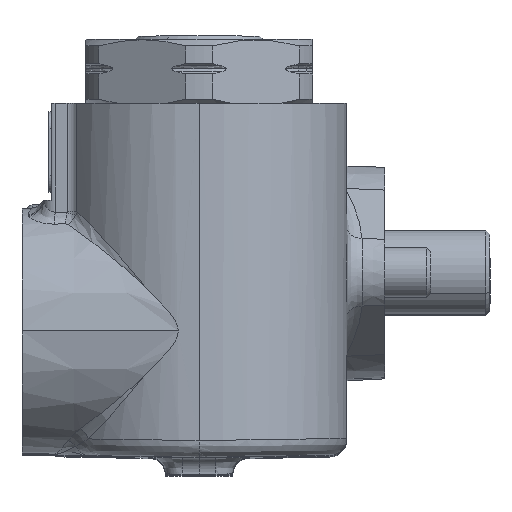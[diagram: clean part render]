
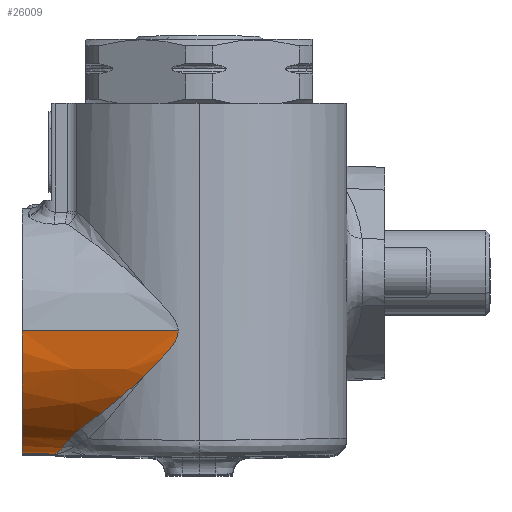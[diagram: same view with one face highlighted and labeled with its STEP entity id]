
A CAD part, top view. The second image highlights one B-rep face of the part: STEP entity #26009.
In plain terms, the highlighted conical face has half-angle 1 degrees and reference radius 14.5 mm.
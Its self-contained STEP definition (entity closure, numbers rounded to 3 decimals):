
#69 = B_SPLINE_CURVE_WITH_KNOTS ( 'NONE', 3,
 ( #10615, #22917, #25132, #16261, #23659, #27624 ),
 .UNSPECIFIED., .F., .F.,
 ( 4, 2, 4 ),
 ( 0., 0.002, 0.003 ),
 .UNSPECIFIED. ) ;
#456 = B_SPLINE_CURVE_WITH_KNOTS ( 'NONE', 3,
 ( #9090, #28290, #1874, #6741, #30948, #4701, #14259, #24054, #23891, #16943, #16505, #13945, #26549, #2331 ),
 .UNSPECIFIED., .F., .F.,
 ( 4, 2, 2, 2, 2, 2, 4 ),
 ( 0.023, 0.024, 0.025, 0.026, 0.026, 0.028, 0.03 ),
 .UNSPECIFIED. ) ;
#1874 = CARTESIAN_POINT ( 'NONE',  ( 3.448, -7.576, 71.313 ) ) ;
#1886 = EDGE_CURVE ( 'NONE', #26635, #27289, #456, .T. ) ;
#2040 = EDGE_CURVE ( 'NONE', #8446, #20182, #69, .T. ) ;
#2140 = EDGE_CURVE ( 'NONE', #17975, #8446, #9083, .T. ) ;
#2331 = CARTESIAN_POINT ( 'NONE',  ( -0.474, -12.326, 70.259 ) ) ;
#2379 = CARTESIAN_POINT ( 'NONE',  ( -6.863, -17.695, 66.523 ) ) ;
#4525 = DIRECTION ( 'NONE',  ( 1., 0., 0.017 ) ) ;
#4701 = CARTESIAN_POINT ( 'NONE',  ( 2.76, -8.831, 71.198 ) ) ;
#5872 = EDGE_CURVE ( 'NONE', #20182, #27289, #25092, .T. ) ;
#6537 = CIRCLE ( 'NONE', #15558, 14.5 ) ;
#6741 = CARTESIAN_POINT ( 'NONE',  ( 3.225, -8.108, 71.279 ) ) ;
#6877 = DIRECTION ( 'NONE',  ( -1., 0.017, 0. ) ) ;
#6885 = LINE ( 'NONE', #16491, #21040 ) ;
#7263 = CARTESIAN_POINT ( 'NONE',  ( -9.52, -19.989, 63.157 ) ) ;
#8432 = CARTESIAN_POINT ( 'NONE',  ( -15., -7., 56.5 ) ) ;
#8446 = VERTEX_POINT ( 'NONE', #18248 ) ;
#9019 = ORIENTED_EDGE ( 'NONE', *, *, #2040, .T. ) ;
#9067 = CARTESIAN_POINT ( 'NONE',  ( -17., -21.465, 56.5 ) ) ;
#9083 = B_SPLINE_CURVE_WITH_KNOTS ( 'NONE', 3,
 ( #9767, #14798, #12118, #14337, #19061, #11801, #31021, #28670, #19225, #7263 ),
 .UNSPECIFIED., .F., .F.,
 ( 4, 2, 2, 2, 4 ),
 ( 0., 0.002, 0.004, 0.005, 0.007 ),
 .UNSPECIFIED. ) ;
#9090 = CARTESIAN_POINT ( 'NONE',  ( 3.519, -7., 71.323 ) ) ;
#9767 = CARTESIAN_POINT ( 'NONE',  ( -11.198, -21.566, 56.5 ) ) ;
#10615 = CARTESIAN_POINT ( 'NONE',  ( -9.52, -19.989, 63.157 ) ) ;
#11015 = CARTESIAN_POINT ( 'NONE',  ( -0.474, -12.326, 70.259 ) ) ;
#11372 = VECTOR ( 'NONE', #6877, 1000. ) ;
#11772 = CARTESIAN_POINT ( 'NONE',  ( -7.469, -18.149, 66.002 ) ) ;
#11801 = CARTESIAN_POINT ( 'NONE',  ( -10.396, -21.028, 60.517 ) ) ;
#12118 = CARTESIAN_POINT ( 'NONE',  ( -11.01, -21.534, 57.672 ) ) ;
#12596 = VERTEX_POINT ( 'NONE', #24638 ) ;
#13334 = ORIENTED_EDGE ( 'NONE', *, *, #26945, .T. ) ;
#13945 = CARTESIAN_POINT ( 'NONE',  ( 0.313, -11.549, 70.555 ) ) ;
#13994 = CARTESIAN_POINT ( 'NONE',  ( -1.754, -13.532, 69.72 ) ) ;
#14027 = VERTEX_POINT ( 'NONE', #23767 ) ;
#14259 = CARTESIAN_POINT ( 'NONE',  ( 2.586, -9.06, 71.165 ) ) ;
#14337 = CARTESIAN_POINT ( 'NONE',  ( -10.798, -21.398, 58.826 ) ) ;
#14435 = FACE_OUTER_BOUND ( 'NONE', #18513, .T. ) ;
#14798 = CARTESIAN_POINT ( 'NONE',  ( -11.103, -21.568, 57.088 ) ) ;
#15192 = DIRECTION ( 'NONE',  ( 0., 0., -1. ) ) ;
#15474 = CONICAL_SURFACE ( 'NONE', #25051, 14.5, 0.017 ) ;
#15558 = AXIS2_PLACEMENT_3D ( 'NONE', #8432, #17990, #15192 ) ;
#16261 = CARTESIAN_POINT ( 'NONE',  ( -8.672, -19.06, 64.76 ) ) ;
#16465 = CARTESIAN_POINT ( 'NONE',  ( -11.198, -21.566, 56.5 ) ) ;
#16491 = CARTESIAN_POINT ( 'NONE',  ( -15., -7., 71. ) ) ;
#16505 = CARTESIAN_POINT ( 'NONE',  ( 1.093, -10.752, 70.803 ) ) ;
#16943 = CARTESIAN_POINT ( 'NONE',  ( 1.48, -10.346, 70.91 ) ) ;
#17372 = ORIENTED_EDGE ( 'NONE', *, *, #1886, .F. ) ;
#17975 = VERTEX_POINT ( 'NONE', #16465 ) ;
#17990 = DIRECTION ( 'NONE',  ( 1., 0., 0. ) ) ;
#18248 = CARTESIAN_POINT ( 'NONE',  ( -9.52, -19.989, 63.157 ) ) ;
#18513 = EDGE_LOOP ( 'NONE', ( #29733, #13334, #27591, #19966, #9019, #19650, #17372 ) ) ;
#19061 = CARTESIAN_POINT ( 'NONE',  ( -10.678, -21.297, 59.395 ) ) ;
#19198 = CARTESIAN_POINT ( 'NONE',  ( -8.055, -18.576, 65.432 ) ) ;
#19225 = CARTESIAN_POINT ( 'NONE',  ( -9.704, -20.245, 62.651 ) ) ;
#19650 = ORIENTED_EDGE ( 'NONE', *, *, #5872, .T. ) ;
#19966 = ORIENTED_EDGE ( 'NONE', *, *, #2140, .T. ) ;
#20182 = VERTEX_POINT ( 'NONE', #27783 ) ;
#21040 = VECTOR ( 'NONE', #4525, 1000. ) ;
#21264 = CARTESIAN_POINT ( 'NONE',  ( -3.695, -15.195, 68.718 ) ) ;
#21580 = CARTESIAN_POINT ( 'NONE',  ( -3.048, -14.656, 69.076 ) ) ;
#22168 = CARTESIAN_POINT ( 'NONE',  ( -15., -7., 56.5 ) ) ;
#22917 = CARTESIAN_POINT ( 'NONE',  ( -9.36, -19.768, 63.595 ) ) ;
#23659 = CARTESIAN_POINT ( 'NONE',  ( -8.383, -18.815, 65.113 ) ) ;
#23767 = CARTESIAN_POINT ( 'NONE',  ( -15., -7., 71. ) ) ;
#23891 = CARTESIAN_POINT ( 'NONE',  ( 2.043, -9.715, 71.048 ) ) ;
#23939 = CARTESIAN_POINT ( 'NONE',  ( -5.619, -16.739, 67.483 ) ) ;
#24054 = CARTESIAN_POINT ( 'NONE',  ( 2.228, -9.501, 71.09 ) ) ;
#24380 = DIRECTION ( 'NONE',  ( 0., 0., 1. ) ) ;
#24638 = CARTESIAN_POINT ( 'NONE',  ( -15., -21.5, 56.5 ) ) ;
#24926 = EDGE_CURVE ( 'NONE', #17975, #12596, #28422, .T. ) ;
#25051 = AXIS2_PLACEMENT_3D ( 'NONE', #22168, #29227, #24380 ) ;
#25092 = B_SPLINE_CURVE_WITH_KNOTS ( 'NONE', 3,
 ( #19198, #11772, #2379, #23939, #25976, #21264, #21580, #13994, #28330, #28791 ),
 .UNSPECIFIED., .F., .F.,
 ( 4, 2, 2, 2, 4 ),
 ( 0., 0.003, 0.006, 0.008, 0.011 ),
 .UNSPECIFIED. ) ;
#25132 = CARTESIAN_POINT ( 'NONE',  ( -9.159, -19.535, 64.002 ) ) ;
#25235 = CARTESIAN_POINT ( 'NONE',  ( 3.519, -7., 71.323 ) ) ;
#25976 = CARTESIAN_POINT ( 'NONE',  ( -4.98, -16.236, 67.923 ) ) ;
#26009 = ADVANCED_FACE ( 'NONE', ( #14435 ), #15474, .T. ) ;
#26143 = EDGE_CURVE ( 'NONE', #14027, #26635, #6885, .T. ) ;
#26549 = CARTESIAN_POINT ( 'NONE',  ( -0.08, -11.94, 70.415 ) ) ;
#26635 = VERTEX_POINT ( 'NONE', #25235 ) ;
#26945 = EDGE_CURVE ( 'NONE', #14027, #12596, #6537, .T. ) ;
#27289 = VERTEX_POINT ( 'NONE', #11015 ) ;
#27591 = ORIENTED_EDGE ( 'NONE', *, *, #24926, .F. ) ;
#27624 = CARTESIAN_POINT ( 'NONE',  ( -8.055, -18.576, 65.432 ) ) ;
#27783 = CARTESIAN_POINT ( 'NONE',  ( -8.055, -18.576, 65.432 ) ) ;
#28290 = CARTESIAN_POINT ( 'NONE',  ( 3.519, -7.29, 71.323 ) ) ;
#28330 = CARTESIAN_POINT ( 'NONE',  ( -1.107, -12.947, 70.006 ) ) ;
#28422 = LINE ( 'NONE', #9067, #11372 ) ;
#28670 = CARTESIAN_POINT ( 'NONE',  ( -9.89, -20.47, 62.134 ) ) ;
#28791 = CARTESIAN_POINT ( 'NONE',  ( -0.474, -12.326, 70.259 ) ) ;
#29227 = DIRECTION ( 'NONE',  ( 1., 0., 0. ) ) ;
#29733 = ORIENTED_EDGE ( 'NONE', *, *, #26143, .F. ) ;
#30948 = CARTESIAN_POINT ( 'NONE',  ( 3.08, -8.355, 71.255 ) ) ;
#31021 = CARTESIAN_POINT ( 'NONE',  ( -10.236, -20.861, 61.068 ) ) ;
